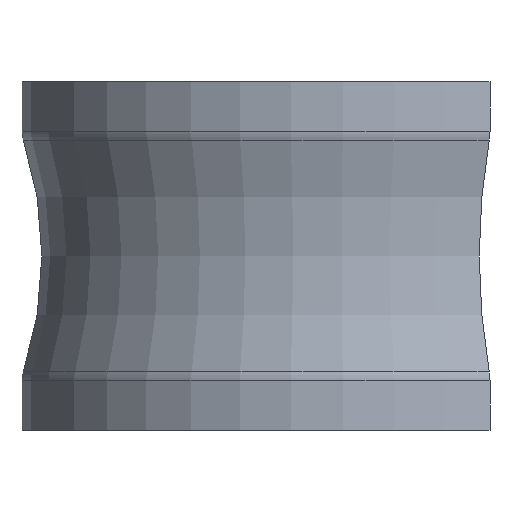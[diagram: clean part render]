
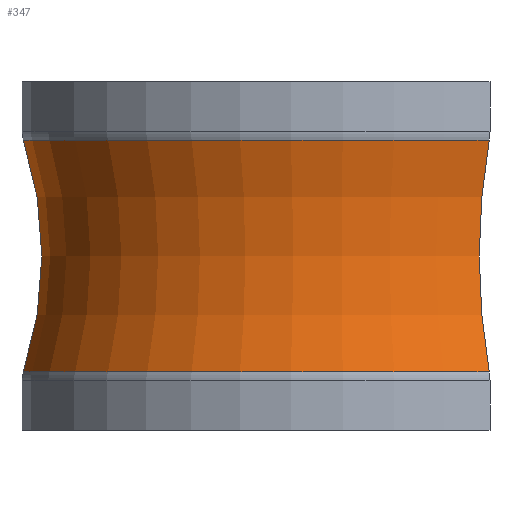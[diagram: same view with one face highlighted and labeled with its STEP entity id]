
A CAD part, front view. The second image highlights one B-rep face of the part: STEP entity #347.
In plain terms, the highlighted toroidal (fillet/blend) face has major radius 15.026 mm and minor radius 8.498 mm.
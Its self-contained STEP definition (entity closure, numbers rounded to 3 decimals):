
#41=CARTESIAN_POINT('',(0.,0.,-6.652));
#42=DIRECTION('',(0.,0.,1.));
#43=DIRECTION('',(0.54,0.841,0.));
#44=AXIS2_PLACEMENT_3D('',#41,#42,#43);
#56=CARTESIAN_POINT('',(0.,0.,-1.349));
#57=DIRECTION('',(0.,0.,1.));
#58=DIRECTION('',(0.54,0.841,0.));
#59=AXIS2_PLACEMENT_3D('',#56,#57,#58);
#61=CARTESIAN_POINT('',(8.119,-12.644,-4.001));
#62=DIRECTION('',(-0.841,-0.54,0.));
#63=DIRECTION('',(-0.513,0.799,0.312));
#64=AXIS2_PLACEMENT_3D('',#61,#62,#63);
#66=CARTESIAN_POINT('',(8.119,12.644,-4.001));
#67=DIRECTION('',(0.841,-0.54,0.));
#68=DIRECTION('',(-0.513,-0.799,0.312));
#69=AXIS2_PLACEMENT_3D('',#66,#67,#68);
#196=CARTESIAN_POINT('',(3.756,5.85,-1.349));
#197=VERTEX_POINT('',#196);
#198=CARTESIAN_POINT('',(3.756,5.85,-6.652));
#199=VERTEX_POINT('',#198);
#212=CARTESIAN_POINT('',(3.756,-5.85,-1.349));
#213=VERTEX_POINT('',#212);
#214=CARTESIAN_POINT('',(3.756,-5.85,-6.652));
#215=VERTEX_POINT('',#214);
#335=CARTESIAN_POINT('',(0.,0.,-4.001));
#336=DIRECTION('',(0.,0.,1.));
#337=DIRECTION('',(-1.,0.,0.));
#338=AXIS2_PLACEMENT_3D('',#335,#336,#337);
#339=TOROIDAL_SURFACE('',#338,15.026,8.498);
#341=ORIENTED_EDGE('',*,*,#340,.T.);
#342=ORIENTED_EDGE('',*,*,#289,.T.);
#343=ORIENTED_EDGE('',*,*,#327,.F.);
#344=ORIENTED_EDGE('',*,*,#256,.F.);
#345=EDGE_LOOP('',(#341,#342,#343,#344));
#346=FACE_OUTER_BOUND('',#345,.F.);
#45=CIRCLE('',#44,6.952);
#60=CIRCLE('',#59,6.952);
#65=CIRCLE('',#64,8.498);
#70=CIRCLE('',#69,8.498);
#256=EDGE_CURVE('',#197,#199,#70,.T.);
#289=EDGE_CURVE('',#213,#215,#65,.T.);
#327=EDGE_CURVE('',#199,#215,#45,.T.);
#340=EDGE_CURVE('',#197,#213,#60,.T.);
#347=ADVANCED_FACE('',(#346),#339,.F.);
